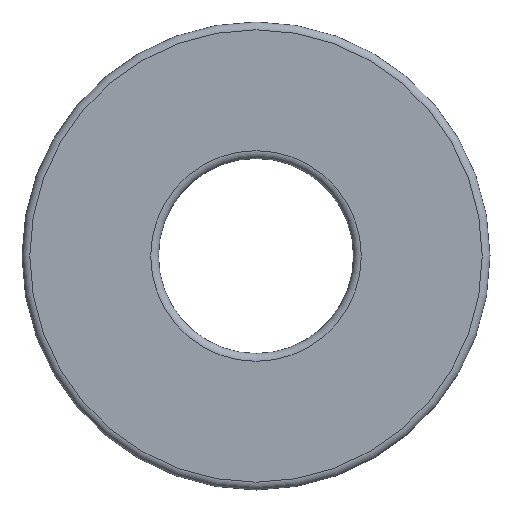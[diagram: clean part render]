
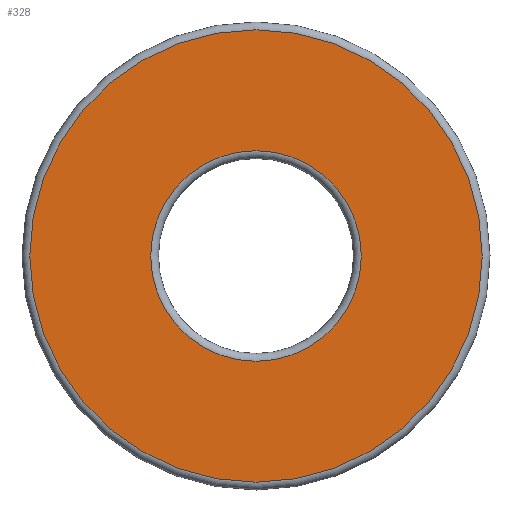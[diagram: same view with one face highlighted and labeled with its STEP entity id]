
A CAD part, left-side view. The second image highlights one B-rep face of the part: STEP entity #328.
In plain terms, the highlighted planar face has unit normal (-1, 0, 0).
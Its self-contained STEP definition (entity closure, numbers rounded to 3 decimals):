
#328 = ADVANCED_FACE( '', ( #401, #402 ), #403, .T. );
#401 = FACE_BOUND( '', #509, .T. );
#402 = FACE_OUTER_BOUND( '', #510, .T. );
#403 = PLANE( '', #511 );
#509 = EDGE_LOOP( '', ( #642 ) );
#510 = EDGE_LOOP( '', ( #643 ) );
#511 = AXIS2_PLACEMENT_3D( '', #644, #645, #646 );
#642 = ORIENTED_EDGE( '', *, *, #752, .T. );
#643 = ORIENTED_EDGE( '', *, *, #753, .F. );
#644 = CARTESIAN_POINT( '', ( 0., 29., 0. ) );
#645 = DIRECTION( '', ( -1., 0., 0. ) );
#646 = DIRECTION( '', ( 0., 0., 1. ) );
#752 = EDGE_CURVE( '', #811, #811, #812, .T. );
#753 = EDGE_CURVE( '', #813, #813, #814, .T. );
#811 = VERTEX_POINT( '', #885 );
#812 = CIRCLE( '', #886, 13.5 );
#813 = VERTEX_POINT( '', #887 );
#814 = CIRCLE( '', #888, 29. );
#885 = CARTESIAN_POINT( '', ( 0., 0., -13.5 ) );
#886 = AXIS2_PLACEMENT_3D( '', #979, #980, #981 );
#887 = CARTESIAN_POINT( '', ( 0., 0., -29. ) );
#888 = AXIS2_PLACEMENT_3D( '', #982, #983, #984 );
#979 = CARTESIAN_POINT( '', ( 0., 0., 0. ) );
#980 = DIRECTION( '', ( 1., 0., 0. ) );
#981 = DIRECTION( '', ( 0., 0., -1. ) );
#982 = CARTESIAN_POINT( '', ( 0., 0., 0. ) );
#983 = DIRECTION( '', ( 1., 0., 0. ) );
#984 = DIRECTION( '', ( 0., 0., -1. ) );
